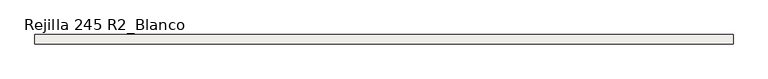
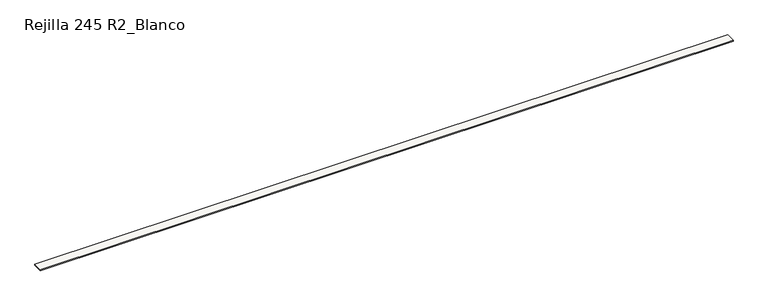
"""IFC4 building model written with IfcOpenShell, lengths in millimetres: slab geometry, ROSA GRES_245 R2 : Rejilla 245 R2_Blanco."""

from ifc_helpers import new_model, si_unit, frame, origin, place, context, project, spatial, polyline, outline, extrude, source, transform, mapped, element, save


def rejilla_245_r2_blanco_65a08111(model_context):
    return source(origin(), model_context, "Body", "SweptSolid", [
        extrude(outline(polyline([(369.5908797, 206.3460936), (369.5908797, 228.3460936), (614.5908797, 228.3460936), (614.5908797, 206.3460936), (572.3142119, 206.3460936), (561.3142119, 195.3460936), (422.8675475, 195.3460936), (411.8675475, 206.3460936), (369.5908797, 206.3460936)])), frame((0.0, 0.0, 0.0), z_axis=(1.0, 0.0, 0.0), x_axis=(0.0, 1.0, 0.0)), (0.0, 0.0, 1.0), 17988.9817541),
    ])


if __name__ == "__main__":
    model = new_model("IFC4")
    model_context = context("Model", 3, world=origin())
    ifc_project = project(units=[si_unit("LENGTHUNIT", "METRE", prefix="MILLI")], contexts=[model_context])
    site = spatial("IfcSite", under=ifc_project)
    building = spatial("IfcBuilding", under=site)
    placement = place(None, origin())
    rejilla_245_r2_blanco_shape = rejilla_245_r2_blanco_65a08111(model_context)
    element("IfcSlab", 1, ObjectType="ROSA GRES_245 R2 : Rejilla 245 R2_Blanco", at=placement, inside=building, context=model_context, shape_type="MappedRepresentation", body=[
        mapped(rejilla_245_r2_blanco_shape, transform((0.0, 0.0, 0.0), x_axis=(1.0, 0.0, 0.0), y_axis=(0.0, 1.0, 0.0), z_axis=(0.0, 0.0, 1.0))),
    ])
    save(model, "model.ifc")
